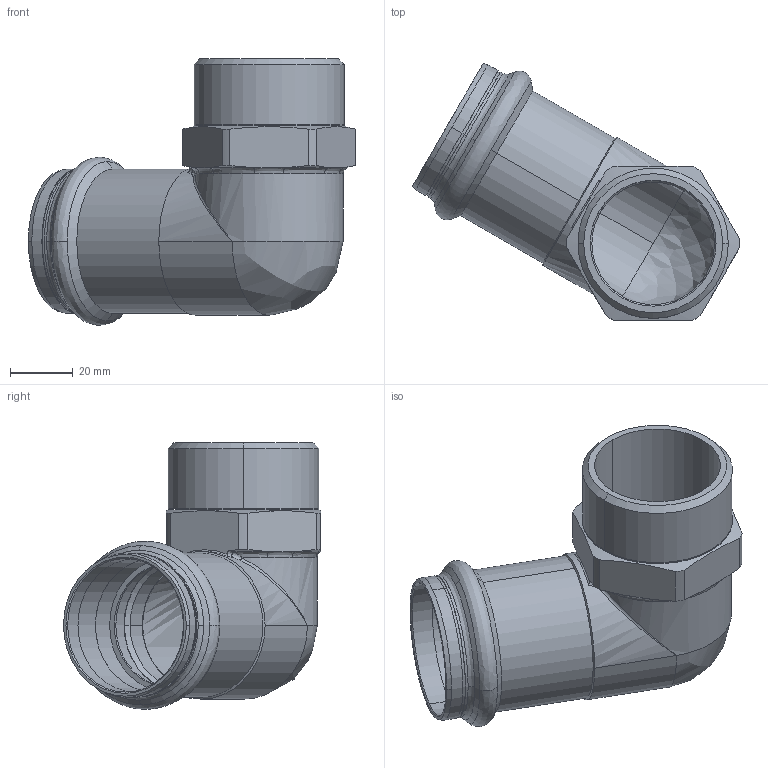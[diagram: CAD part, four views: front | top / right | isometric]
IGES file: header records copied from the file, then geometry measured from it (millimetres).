
Start section: Elysium IGES Interface
Global section: file name: F:\3d modellen sudo\S-Pr VP\SP6092GV\6092GVW42112.igs; native system: CoCreate Modeling 17.00A  17-Jun-2010; preprocessor: CoCreate IGES_3D V2.2; author: Unknown; organization: Unknown; date: 20130124.155459; units: millimetre
Bounding box: 104.07 x 81.73 x 84.68 mm (x, y, z)
Volume: 62296.5 mm3; surface area: 38234.6 mm2
Topology: 1 solids, 1 shells, 110 faces, 276 edges, 164 vertices
Faces by surface type: bspline 110
